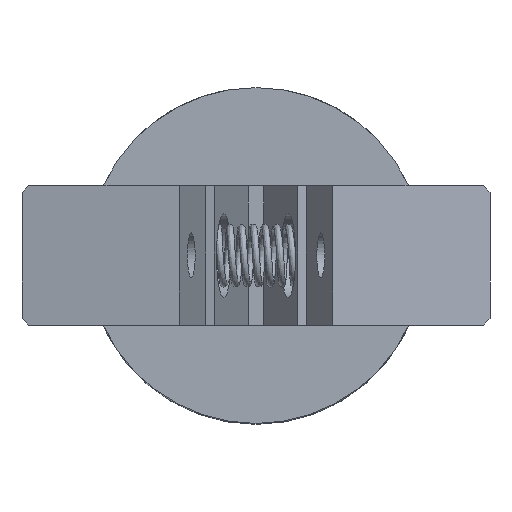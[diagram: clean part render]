
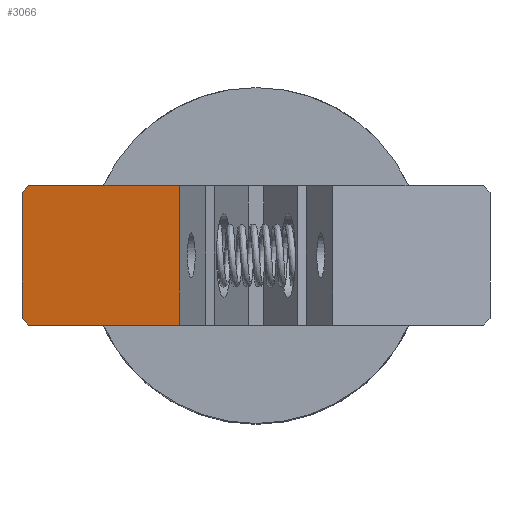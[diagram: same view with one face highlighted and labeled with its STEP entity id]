
A CAD part, top view. The second image highlights one B-rep face of the part: STEP entity #3066.
In plain terms, the highlighted planar face has unit normal (-0.174, 0, 0.985).
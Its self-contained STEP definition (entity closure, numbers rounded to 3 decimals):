
#15 = DIRECTION ( 'NONE',  ( 0.174, 0., -0.985 ) ) ;
#85 = LINE ( 'NONE', #374, #565 ) ;
#141 = CARTESIAN_POINT ( 'NONE',  ( -8.361, -2.25, 24.129 ) ) ;
#362 = CARTESIAN_POINT ( 'NONE',  ( -2.748, 2.5, 25.118 ) ) ;
#374 = CARTESIAN_POINT ( 'NONE',  ( -8.361, -2.25, 24.129 ) ) ;
#413 = ORIENTED_EDGE ( 'NONE', *, *, #3405, .T. ) ;
#494 = CARTESIAN_POINT ( 'NONE',  ( -8.361, -2.5, 24.129 ) ) ;
#526 = ORIENTED_EDGE ( 'NONE', *, *, #2831, .T. ) ;
#565 = VECTOR ( 'NONE', #922, 1000. ) ;
#581 = FACE_OUTER_BOUND ( 'NONE', #843, .T. ) ;
#626 = PLANE ( 'NONE',  #1285 ) ;
#774 = CARTESIAN_POINT ( 'NONE',  ( -2.748, -2.5, 25.118 ) ) ;
#801 = EDGE_CURVE ( 'NONE', #3540, #2940, #2776, .T. ) ;
#843 = EDGE_LOOP ( 'NONE', ( #3140, #526, #2826, #1817, #1986, #413 ) ) ;
#912 = DIRECTION ( 'NONE',  ( 0., -1., 0. ) ) ;
#922 = DIRECTION ( 'NONE',  ( 0.696, -0.707, 0.123 ) ) ;
#966 = EDGE_CURVE ( 'NONE', #1713, #2403, #2805, .T. ) ;
#1003 = CARTESIAN_POINT ( 'NONE',  ( -8.115, -2.5, 24.172 ) ) ;
#1026 = DIRECTION ( 'NONE',  ( 0.985, 0., 0.174 ) ) ;
#1088 = VECTOR ( 'NONE', #1026, 1000. ) ;
#1109 = CARTESIAN_POINT ( 'NONE',  ( -8.361, 2.5, 24.129 ) ) ;
#1145 = CARTESIAN_POINT ( 'NONE',  ( -8.361, 2.5, 24.129 ) ) ;
#1171 = VECTOR ( 'NONE', #3583, 1000. ) ;
#1285 = AXIS2_PLACEMENT_3D ( 'NONE', #1145, #15, #2302 ) ;
#1442 = EDGE_CURVE ( 'NONE', #3288, #2940, #2361, .T. ) ;
#1525 = VECTOR ( 'NONE', #3691, 1000. ) ;
#1535 = VERTEX_POINT ( 'NONE', #3122 ) ;
#1632 = CARTESIAN_POINT ( 'NONE',  ( -2.748, 2.5, 25.118 ) ) ;
#1713 = VERTEX_POINT ( 'NONE', #2504 ) ;
#1777 = CARTESIAN_POINT ( 'NONE',  ( -8.115, 2.5, 24.172 ) ) ;
#1817 = ORIENTED_EDGE ( 'NONE', *, *, #1442, .F. ) ;
#1943 = EDGE_CURVE ( 'NONE', #1535, #3288, #3626, .T. ) ;
#1986 = ORIENTED_EDGE ( 'NONE', *, *, #1943, .F. ) ;
#1992 = DIRECTION ( 'NONE',  ( 0., -1., 0. ) ) ;
#2102 = VECTOR ( 'NONE', #1992, 1000. ) ;
#2302 = DIRECTION ( 'NONE',  ( -0.985, 0., -0.174 ) ) ;
#2361 = LINE ( 'NONE', #362, #3255 ) ;
#2403 = VERTEX_POINT ( 'NONE', #141 ) ;
#2504 = CARTESIAN_POINT ( 'NONE',  ( -8.361, 2.25, 24.129 ) ) ;
#2776 = LINE ( 'NONE', #494, #1088 ) ;
#2805 = LINE ( 'NONE', #1109, #2102 ) ;
#2826 = ORIENTED_EDGE ( 'NONE', *, *, #801, .T. ) ;
#2831 = EDGE_CURVE ( 'NONE', #2403, #3540, #85, .T. ) ;
#2940 = VERTEX_POINT ( 'NONE', #774 ) ;
#3066 = ADVANCED_FACE ( 'NONE', ( #581 ), #626, .F. ) ;
#3122 = CARTESIAN_POINT ( 'NONE',  ( -8.115, 2.5, 24.172 ) ) ;
#3140 = ORIENTED_EDGE ( 'NONE', *, *, #966, .T. ) ;
#3177 = LINE ( 'NONE', #1777, #1171 ) ;
#3255 = VECTOR ( 'NONE', #912, 1000. ) ;
#3288 = VERTEX_POINT ( 'NONE', #1632 ) ;
#3359 = CARTESIAN_POINT ( 'NONE',  ( -8.361, 2.5, 24.129 ) ) ;
#3405 = EDGE_CURVE ( 'NONE', #1535, #1713, #3177, .T. ) ;
#3540 = VERTEX_POINT ( 'NONE', #1003 ) ;
#3583 = DIRECTION ( 'NONE',  ( -0.696, -0.707, -0.123 ) ) ;
#3626 = LINE ( 'NONE', #3359, #1525 ) ;
#3691 = DIRECTION ( 'NONE',  ( 0.985, 0., 0.174 ) ) ;
